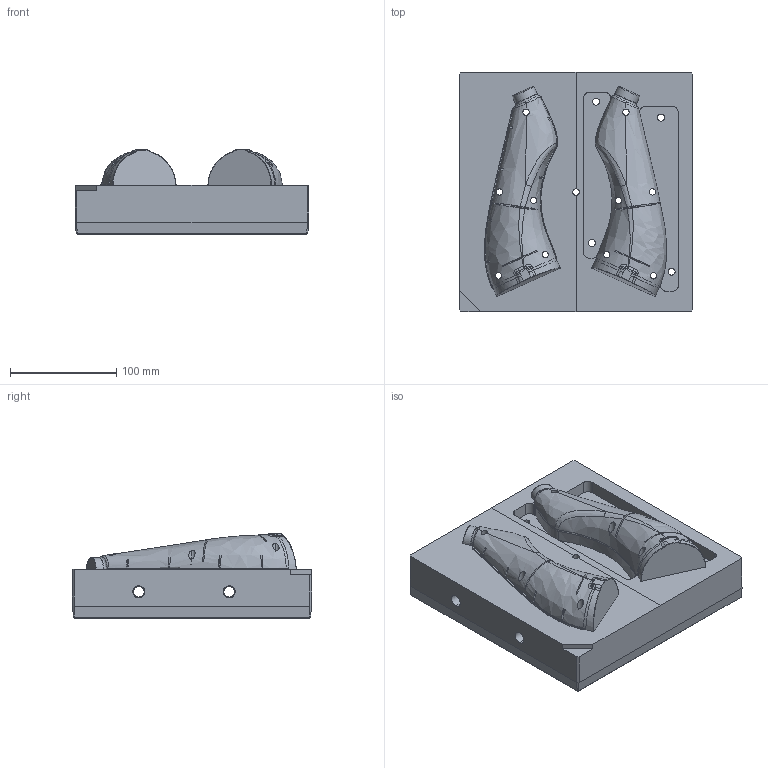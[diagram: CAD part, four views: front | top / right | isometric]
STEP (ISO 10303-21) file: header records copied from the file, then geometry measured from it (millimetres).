
FILE_DESCRIPTION (( 'STEP AP214' ), '1' );
FILE_NAME ('Empreinte mobile.STEP', '2017-09-22T15:22:26', ( '' ), ( '' ), 'SwSTEP 2.0', 'SolidWorks 2011', '' );
FILE_SCHEMA (( 'AUTOMOTIVE_DESIGN' ));
Length unit declared in the file: millimetre
Products named in the file (1): Empreinte mobile
Bounding box: 220 x 225 x 79.7 mm (x, y, z)
Volume: 2458930.4 mm3; surface area: 196574.4 mm2
Topology: 1 solids, 1 shells, 363 faces, 965 edges, 620 vertices
Faces by surface type: bspline 134, plane 119, cylinder 100, cone 10
Entity records: 27388 total; most frequent: CARTESIAN_POINT 19658, ORIENTED_EDGE 1914, DIRECTION 1015, EDGE_CURVE 957, VERTEX_POINT 620, B_SPLINE_CURVE_WITH_KNOTS 526, EDGE_LOOP 421, FACE_OUTER_BOUND 363
